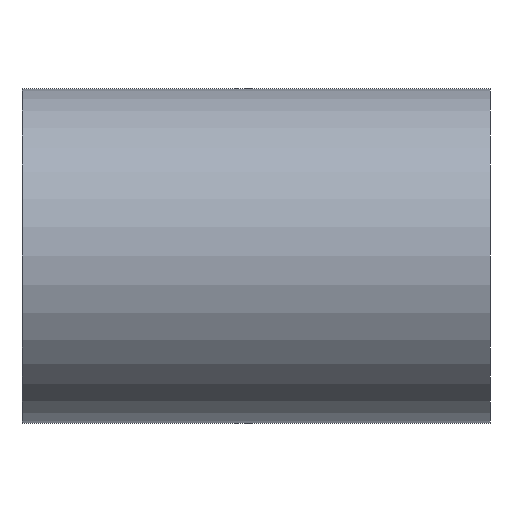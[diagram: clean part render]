
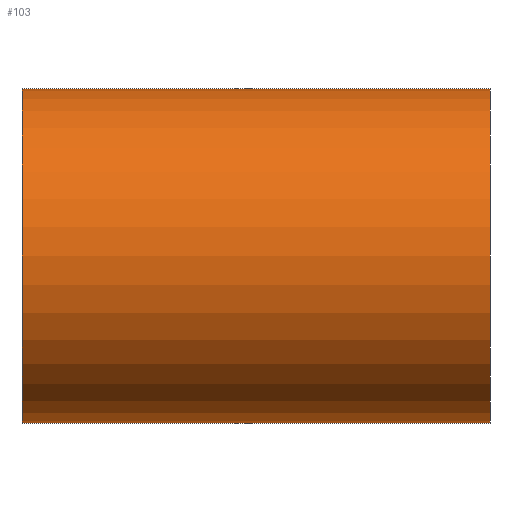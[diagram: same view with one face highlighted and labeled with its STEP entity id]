
A CAD part, left-side view. The second image highlights one B-rep face of the part: STEP entity #103.
In plain terms, the highlighted cylindrical face has radius 2.325 mm (diameter 4.65 mm), a partial arc.
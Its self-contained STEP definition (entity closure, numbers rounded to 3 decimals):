
#16 = CARTESIAN_POINT ( 'NONE',  ( 0., 6.5, 2.325 ) ) ;
#17 = ORIENTED_EDGE ( 'NONE', *, *, #41, .T. ) ;
#28 = VERTEX_POINT ( 'NONE', #47 ) ;
#41 = EDGE_CURVE ( 'NONE', #76, #207, #198, .T. ) ;
#47 = CARTESIAN_POINT ( 'NONE',  ( 0., 6.5, -2.325 ) ) ;
#55 = CARTESIAN_POINT ( 'NONE',  ( 0., 6.5, 0. ) ) ;
#56 = CARTESIAN_POINT ( 'NONE',  ( 0., 0., 2.325 ) ) ;
#58 = AXIS2_PLACEMENT_3D ( 'NONE', #144, #156, #159 ) ;
#64 = CARTESIAN_POINT ( 'NONE',  ( 0., 6.5, 2.325 ) ) ;
#69 = AXIS2_PLACEMENT_3D ( 'NONE', #55, #100, #116 ) ;
#72 = EDGE_LOOP ( 'NONE', ( #114, #126, #172, #17 ) ) ;
#76 = VERTEX_POINT ( 'NONE', #145 ) ;
#99 = DIRECTION ( 'NONE',  ( 0., -1., 0. ) ) ;
#100 = DIRECTION ( 'NONE',  ( 0., 1., 0. ) ) ;
#103 = ADVANCED_FACE ( 'NONE', ( #149 ), #154, .T. ) ;
#109 = VERTEX_POINT ( 'NONE', #16 ) ;
#114 = ORIENTED_EDGE ( 'NONE', *, *, #122, .F. ) ;
#116 = DIRECTION ( 'NONE',  ( 0., 0., 1. ) ) ;
#120 = CARTESIAN_POINT ( 'NONE',  ( 0., 6.5, -2.325 ) ) ;
#122 = EDGE_CURVE ( 'NONE', #109, #207, #157, .T. ) ;
#126 = ORIENTED_EDGE ( 'NONE', *, *, #190, .F. ) ;
#133 = EDGE_CURVE ( 'NONE', #28, #76, #152, .T. ) ;
#135 = CIRCLE ( 'NONE', #69, 2.325 ) ;
#137 = DIRECTION ( 'NONE',  ( 0., -1., 0. ) ) ;
#138 = VECTOR ( 'NONE', #99, 1000. ) ;
#143 = DIRECTION ( 'NONE',  ( 0., -1., 0. ) ) ;
#144 = CARTESIAN_POINT ( 'NONE',  ( 0., 0., 0. ) ) ;
#145 = CARTESIAN_POINT ( 'NONE',  ( 0., 0., -2.325 ) ) ;
#149 = FACE_OUTER_BOUND ( 'NONE', #72, .T. ) ;
#152 = LINE ( 'NONE', #120, #178 ) ;
#154 = CYLINDRICAL_SURFACE ( 'NONE', #155, 2.325 ) ;
#155 = AXIS2_PLACEMENT_3D ( 'NONE', #161, #143, #180 ) ;
#156 = DIRECTION ( 'NONE',  ( 0., 1., 0. ) ) ;
#157 = LINE ( 'NONE', #64, #138 ) ;
#159 = DIRECTION ( 'NONE',  ( 0., 0., 1. ) ) ;
#161 = CARTESIAN_POINT ( 'NONE',  ( 0., 6.5, 0. ) ) ;
#172 = ORIENTED_EDGE ( 'NONE', *, *, #133, .T. ) ;
#178 = VECTOR ( 'NONE', #137, 1000. ) ;
#180 = DIRECTION ( 'NONE',  ( 0., 0., -1. ) ) ;
#190 = EDGE_CURVE ( 'NONE', #28, #109, #135, .T. ) ;
#198 = CIRCLE ( 'NONE', #58, 2.325 ) ;
#207 = VERTEX_POINT ( 'NONE', #56 ) ;
